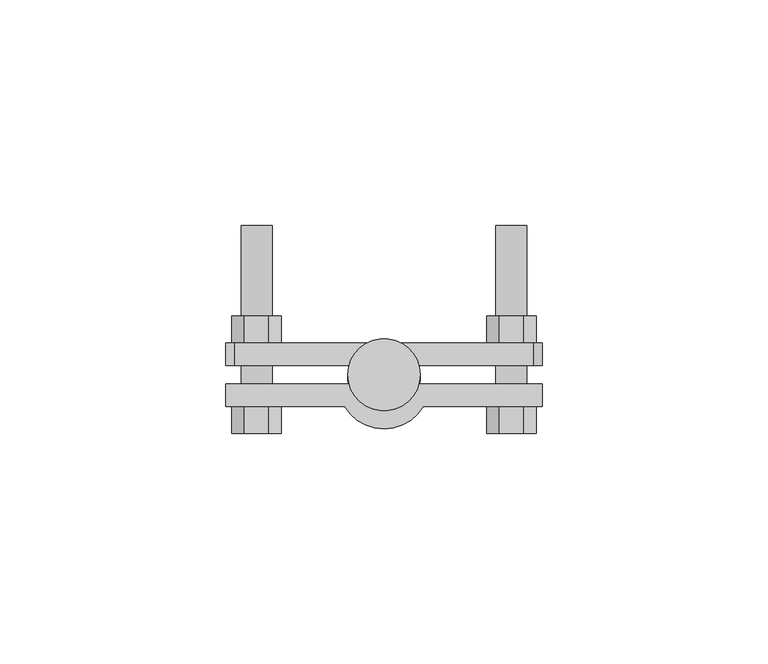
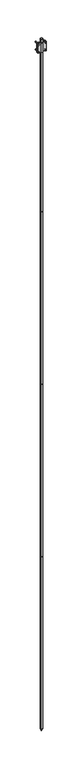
"""IFC4 building model written with IfcOpenShell, lengths in millimetres: proxy geometry, КНС_КомплектВертикальногоЗаземлителя_DKC : NE1150_Горячеоцинкованная сталь_6м."""

from ifc_helpers import new_model, si_unit, point, frame, frame_2d, origin, origin_2d, place, context, project, spatial, polyline, circle_curve, trimmed, segment, composite_curve, outline, extrude, source, transform, mapped, element, save
from ifc_brep_helpers import plane_surface, revolved_surface, advanced_brep


def security_devices_7a772254(model_context):
    return source(origin(), model_context, "Body", "SolidModel", [
        extrude(outline(composite_curve([segment(trimmed(circle_curve(origin_2d(), 6.0), [point((-6.0, 0.0))], [point((6.0, 0.0))], False, "CARTESIAN"), True, "CONTINUOUS"), segment(trimmed(circle_curve(origin_2d(), 6.0), [point((6.0, 0.0))], [point((-6.0, 0.0))], False, "CARTESIAN"), True, "CONTINUOUS")], self_intersect=False)), frame((0.0, 0.0, 4490.0), z_axis=(0.0, 0.0, 1.0), x_axis=(1.0, 0.0, 0.0)), (0.0, 0.0, 1.0), 30.0),
        extrude(outline(composite_curve([segment(trimmed(circle_curve(origin_2d(), 8.0), [point((-8.0, 0.0))], [point((8.0, 0.0))], False, "CARTESIAN"), True, "CONTINUOUS"), segment(trimmed(circle_curve(origin_2d(), 8.0), [point((8.0, 0.0))], [point((-8.0, 0.0))], False, "CARTESIAN"), True, "CONTINUOUS")], self_intersect=False)), frame((0.0, 0.0, 4520.0), z_axis=(0.0, 0.0, 1.0), x_axis=(1.0, 0.0, 0.0)), (0.0, 0.0, 1.0), 1500.0),
        extrude(outline(composite_curve([segment(trimmed(circle_curve(origin_2d(), 6.0), [point((-6.0, 0.0))], [point((6.0, 0.0))], False, "CARTESIAN"), True, "CONTINUOUS"), segment(trimmed(circle_curve(origin_2d(), 6.0), [point((6.0, 0.0))], [point((-6.0, 0.0))], False, "CARTESIAN"), True, "CONTINUOUS")], self_intersect=False)), frame((0.0, 0.0, 2990.0), z_axis=(0.0, 0.0, 1.0), x_axis=(1.0, 0.0, 0.0)), (0.0, 0.0, 1.0), 30.0),
        extrude(outline(composite_curve([segment(trimmed(circle_curve(origin_2d(), 8.0), [point((-8.0, 0.0))], [point((8.0, 0.0))], False, "CARTESIAN"), True, "CONTINUOUS"), segment(trimmed(circle_curve(origin_2d(), 8.0), [point((8.0, 0.0))], [point((-8.0, 0.0))], False, "CARTESIAN"), True, "CONTINUOUS")], self_intersect=False)), frame((0.0, 0.0, 3020.0), z_axis=(0.0, 0.0, 1.0), x_axis=(1.0, 0.0, 0.0)), (0.0, 0.0, 1.0), 1500.0),
        extrude(outline(composite_curve([segment(trimmed(circle_curve(origin_2d(), 6.0), [point((-6.0, 0.0))], [point((6.0, 0.0))], False, "CARTESIAN"), True, "CONTINUOUS"), segment(trimmed(circle_curve(origin_2d(), 6.0), [point((6.0, 0.0))], [point((-6.0, 0.0))], False, "CARTESIAN"), True, "CONTINUOUS")], self_intersect=False)), frame((0.0, 0.0, 1490.0), z_axis=(0.0, 0.0, 1.0), x_axis=(1.0, 0.0, 0.0)), (0.0, 0.0, 1.0), 30.0),
        extrude(outline(composite_curve([segment(trimmed(circle_curve(origin_2d(), 8.0), [point((-8.0, 0.0))], [point((8.0, 0.0))], False, "CARTESIAN"), True, "CONTINUOUS"), segment(trimmed(circle_curve(origin_2d(), 8.0), [point((8.0, 0.0))], [point((-8.0, 0.0))], False, "CARTESIAN"), True, "CONTINUOUS")], self_intersect=False)), frame((0.0, 0.0, 1520.0), z_axis=(0.0, 0.0, 1.0), x_axis=(1.0, 0.0, 0.0)), (0.0, 0.0, 1.0), 1500.0),
        advanced_brep(
        [(0.0, 0.0, 20.0), (8.0, 0.0, 20.0), (-8.0, 0.0, 20.0), (0.0, 0.0, 0.0)],
        [
            (0, 1),
            (1, 2, circle_curve(frame((0.0, 0.0, 20.0), z_axis=(0.0, 0.0, 1.0), x_axis=(1.0, 0.0, 0.0)), 8.0)),
            (2, 0),
            (2, 1, circle_curve(frame((0.0, 0.0, 20.0), z_axis=(0.0, 0.0, 1.0), x_axis=(1.0, 0.0, 0.0)), 8.0)),
            (1, 3),
            (3, 2),
        ],
        [
            plane_surface(frame((0.0, 0.0, 20.0), z_axis=(0.0, 0.0, 1.0), x_axis=(1.0, 0.0, 0.0))),
            revolved_surface(polyline([(0.0, 0.0, 0.0), (8.0, 0.0, 20.0)]), (0.0, 0.0, 2234.3150031), (0.0, 0.0, 1.0)),
        ],
        [
            (0, [[1, 2, 3]]),
            (0, [[-3, 4, -1]]),
            (1, [[-2, 5, 6]]),
            (1, [[-4, -6, -5]]),
        ],
    ),
        extrude(outline(composite_curve([segment(trimmed(circle_curve(origin_2d(), 8.0), [point((-8.0, 0.0))], [point((8.0, 0.0))], False, "CARTESIAN"), True, "CONTINUOUS"), segment(trimmed(circle_curve(origin_2d(), 8.0), [point((8.0, 0.0))], [point((-8.0, 0.0))], False, "CARTESIAN"), True, "CONTINUOUS")], self_intersect=False)), frame((0.0, 0.0, 20.0), z_axis=(0.0, 0.0, 1.0), x_axis=(1.0, 0.0, 0.0)), (0.0, 0.0, 1.0), 1500.0),
        extrude(outline(composite_curve([segment(polyline([(-35.0, -7.0), (-35.0, -2.0), (-5.0, -2.0)]), True, "CONTINUOUS"), segment(trimmed(circle_curve(frame_2d((0.0, -2.0)), 5.0), [point((-5.0, -2.0))], [point((5.0, -2.0))], True, "CARTESIAN"), True, "CONTINUOUS"), segment(polyline([(5.0, -2.0), (35.0, -2.0), (35.0, -7.0), (8.660254, -7.0)]), True, "CONTINUOUS"), segment(trimmed(circle_curve(frame_2d((0.0, -2.0)), 10.0), [point((8.660254, -7.0))], [point((-8.660254, -7.0))], False, "CARTESIAN"), True, "CONTINUOUS"), segment(polyline([(-8.660254, -7.0), (-35.0, -7.0)]), True, "CONTINUOUS")], self_intersect=False)), frame((0.0, 0.0, 5910.0), z_axis=(0.0, 0.0, 1.0), x_axis=(1.0, 0.0, 0.0)), (0.0, 0.0, 1.0), 80.0),
        extrude(outline(composite_curve([segment(trimmed(circle_curve(frame_2d((5983.28125, -28.2121057)), 3.4209609), [point((5983.28125, -31.6330666))], [point((5983.28125, -24.7911448))], False, "CARTESIAN"), True, "CONTINUOUS"), segment(trimmed(circle_curve(frame_2d((5983.28125, -28.2121057)), 3.4209609), [point((5983.28125, -24.7911448))], [point((5983.28125, -31.6330666))], False, "CARTESIAN"), True, "CONTINUOUS")], self_intersect=False)), frame((0.0, -7.0, 0.0), z_axis=(0.0, 1.0, 0.0), x_axis=(0.0, 0.0, 1.0)), (0.0, 0.0, 1.0), 40.0),
        extrude(outline(composite_curve([segment(trimmed(circle_curve(frame_2d((5983.28125, 28.2121057)), 3.4209609), [point((5983.28125, 24.7911448))], [point((5983.28125, 31.6330666))], False, "CARTESIAN"), True, "CONTINUOUS"), segment(trimmed(circle_curve(frame_2d((5983.28125, 28.2121057)), 3.4209609), [point((5983.28125, 31.6330666))], [point((5983.28125, 24.7911448))], False, "CARTESIAN"), True, "CONTINUOUS")], self_intersect=False)), frame((0.0, -7.0, 0.0), z_axis=(0.0, 1.0, 0.0), x_axis=(0.0, 0.0, 1.0)), (0.0, 0.0, 1.0), 40.0),
        extrude(outline(composite_curve([segment(trimmed(circle_curve(frame_2d((5916.71875, -28.2121057)), 3.4209609), [point((5916.71875, -31.6330666))], [point((5916.71875, -24.7911448))], False, "CARTESIAN"), True, "CONTINUOUS"), segment(trimmed(circle_curve(frame_2d((5916.71875, -28.2121057)), 3.4209609), [point((5916.71875, -24.7911448))], [point((5916.71875, -31.6330666))], False, "CARTESIAN"), True, "CONTINUOUS")], self_intersect=False)), frame((0.0, -7.0, 0.0), z_axis=(0.0, 1.0, 0.0), x_axis=(0.0, 0.0, 1.0)), (0.0, 0.0, 1.0), 40.0),
        extrude(outline(composite_curve([segment(trimmed(circle_curve(frame_2d((5916.71875, 28.2121057)), 3.4209609), [point((5916.71875, 24.7911448))], [point((5916.71875, 31.6330666))], False, "CARTESIAN"), True, "CONTINUOUS"), segment(trimmed(circle_curve(frame_2d((5916.71875, 28.2121057)), 3.4209609), [point((5916.71875, 31.6330666))], [point((5916.71875, 24.7911448))], False, "CARTESIAN"), True, "CONTINUOUS")], self_intersect=False)), frame((0.0, -7.0, 0.0), z_axis=(0.0, 1.0, 0.0), x_axis=(0.0, 0.0, 1.0)), (0.0, 0.0, 1.0), 40.0),
        extrude(outline(polyline([(5983.3883083, -33.6996224), (5978.6359794, -30.955864), (5978.6359794, -25.4683473), (5983.3883083, -22.724589), (5988.1406371, -25.4683473), (5988.1406371, -30.955864), (5983.3883083, -33.6996224)])), frame((0.0, 7.0, 0.0), z_axis=(0.0, 1.0, 0.0), x_axis=(0.0, 0.0, 1.0)), (0.0, 0.0, 1.0), 6.0),
        extrude(outline(polyline([(5983.3883083, 33.6996224), (5988.1406371, 30.955864), (5988.1406371, 25.4683473), (5983.3883083, 22.724589), (5978.6359794, 25.4683473), (5978.6359794, 30.955864), (5983.3883083, 33.6996224)])), frame((0.0, 7.0, 0.0), z_axis=(0.0, 1.0, 0.0), x_axis=(0.0, 0.0, 1.0)), (0.0, 0.0, 1.0), 6.0),
        extrude(outline(polyline([(5916.6116917, -33.6996224), (5911.8593629, -30.955864), (5911.8593629, -25.4683473), (5916.6116917, -22.724589), (5921.3640206, -25.4683473), (5921.3640206, -30.955864), (5916.6116917, -33.6996224)])), frame((0.0, 7.0, 0.0), z_axis=(0.0, 1.0, 0.0), x_axis=(0.0, 0.0, 1.0)), (0.0, 0.0, 1.0), 6.0),
        extrude(outline(polyline([(5916.6116917, 33.6996224), (5921.3640206, 30.955864), (5921.3640206, 25.4683473), (5916.6116917, 22.724589), (5911.8593629, 25.4683473), (5911.8593629, 30.955864), (5916.6116917, 33.6996224)])), frame((0.0, 7.0, 0.0), z_axis=(0.0, 1.0, 0.0), x_axis=(0.0, 0.0, 1.0)), (0.0, 0.0, 1.0), 6.0),
        extrude(outline(polyline([(5983.3883083, -33.6996224), (5978.6359794, -30.955864), (5978.6359794, -25.4683473), (5983.3883083, -22.724589), (5988.1406371, -25.4683473), (5988.1406371, -30.955864), (5983.3883083, -33.6996224)])), frame((0.0, -13.0, 0.0), z_axis=(0.0, 1.0, 0.0), x_axis=(0.0, 0.0, 1.0)), (0.0, 0.0, 1.0), 6.0),
        extrude(outline(polyline([(5983.3883083, 33.6996224), (5988.1406371, 30.955864), (5988.1406371, 25.4683473), (5983.3883083, 22.724589), (5978.6359794, 25.4683473), (5978.6359794, 30.955864), (5983.3883083, 33.6996224)])), frame((0.0, -13.0, 0.0), z_axis=(0.0, 1.0, 0.0), x_axis=(0.0, 0.0, 1.0)), (0.0, 0.0, 1.0), 6.0),
        extrude(outline(polyline([(5916.6116917, -33.6996224), (5911.8593629, -30.955864), (5911.8593629, -25.4683473), (5916.6116917, -22.724589), (5921.3640206, -25.4683473), (5921.3640206, -30.955864), (5916.6116917, -33.6996224)])), frame((0.0, -13.0, 0.0), z_axis=(0.0, 1.0, 0.0), x_axis=(0.0, 0.0, 1.0)), (0.0, 0.0, 1.0), 6.0),
        extrude(outline(polyline([(5916.6116917, 33.6996224), (5921.3640206, 30.955864), (5921.3640206, 25.4683473), (5916.6116917, 22.724589), (5911.8593629, 25.4683473), (5911.8593629, 30.955864), (5916.6116917, 33.6996224)])), frame((0.0, -13.0, 0.0), z_axis=(0.0, 1.0, 0.0), x_axis=(0.0, 0.0, 1.0)), (0.0, 0.0, 1.0), 6.0),
        extrude(outline(composite_curve([segment(polyline([(5990.0, 33.0), (5990.0, -33.0)]), True, "CONTINUOUS"), segment(trimmed(circle_curve(frame_2d((5988.0, -33.0)), 2.0), [point((5990.0, -33.0))], [point((5988.0, -35.0))], False, "CARTESIAN"), True, "CONTINUOUS"), segment(polyline([(5988.0, -35.0), (5912.0, -35.0)]), True, "CONTINUOUS"), segment(trimmed(circle_curve(frame_2d((5912.0, -33.0)), 2.0), [point((5912.0, -35.0))], [point((5910.0, -33.0))], False, "CARTESIAN"), True, "CONTINUOUS"), segment(polyline([(5910.0, -33.0), (5910.0, 33.0)]), True, "CONTINUOUS"), segment(trimmed(circle_curve(frame_2d((5912.0, 33.0)), 2.0), [point((5910.0, 33.0))], [point((5912.0, 35.0))], False, "CARTESIAN"), True, "CONTINUOUS"), segment(polyline([(5912.0, 35.0), (5988.0, 35.0)]), True, "CONTINUOUS"), segment(trimmed(circle_curve(frame_2d((5988.0, 33.0)), 2.0), [point((5988.0, 35.0))], [point((5990.0, 33.0))], False, "CARTESIAN"), True, "CONTINUOUS")], self_intersect=False)), frame((0.0, 2.0, 0.0), z_axis=(0.0, 1.0, 0.0), x_axis=(0.0, 0.0, 1.0)), (0.0, 0.0, 1.0), 5.0),
    ])


if __name__ == "__main__":
    model = new_model("IFC4")
    model_context = context("Model", 3, world=origin())
    ifc_project = project(units=[si_unit("LENGTHUNIT", "METRE", prefix="MILLI")], contexts=[model_context])
    site = spatial("IfcSite", under=ifc_project)
    building = spatial("IfcBuilding", under=site)
    placement = place(None, origin())
    security_devices_shape = security_devices_7a772254(model_context)
    element("IfcBuildingElementProxy", 1, Name="КНС_КомплектВертикальногоЗаземлителя_DKC : NE1150_Горячеоцинкованная сталь_6м", ObjectType="КНС_КомплектВертикальногоЗаземлителя_DKC : NE1150_Горячеоцинкованная сталь_6м", at=placement, inside=building, context=model_context, shape_type="MappedRepresentation", body=[
        mapped(security_devices_shape, transform((0.0, 0.0, 0.0), x_axis=(1.0, 0.0, 0.0), y_axis=(0.0, 1.0, 0.0), z_axis=(0.0, 0.0, 1.0))),
    ])
    save(model, "model.ifc")
